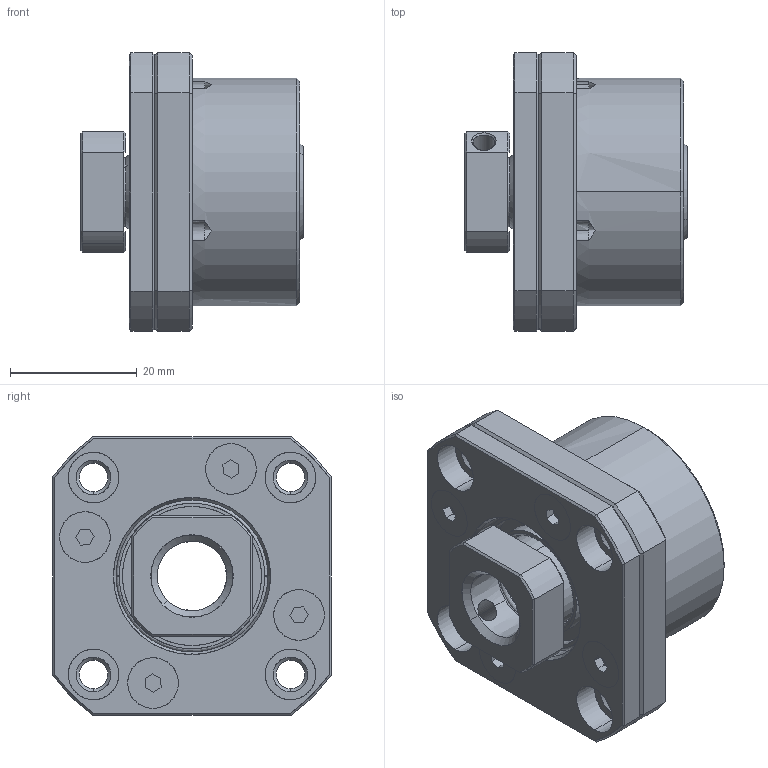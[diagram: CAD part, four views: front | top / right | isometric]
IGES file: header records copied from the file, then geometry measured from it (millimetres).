
Start section: SolidWorks IGES file using analytic representation for surfaces
Global section: file name: 4HC:\Users\117\Desktop\FK12組合A.IGS; native system: SolidWorks 2018; preprocessor: SolidWorks 2018; author: 117; date: 210929.092627; units: millimetre
Bounding box: 35.1 x 44 x 44 mm (x, y, z)
Surface area: 13713.5 mm2 (no closed solid volume)
Topology: 0 solids, 0 shells, 227 faces, 3272 edges, 3272 vertices
Faces by surface type: revolution 121, bspline 106
